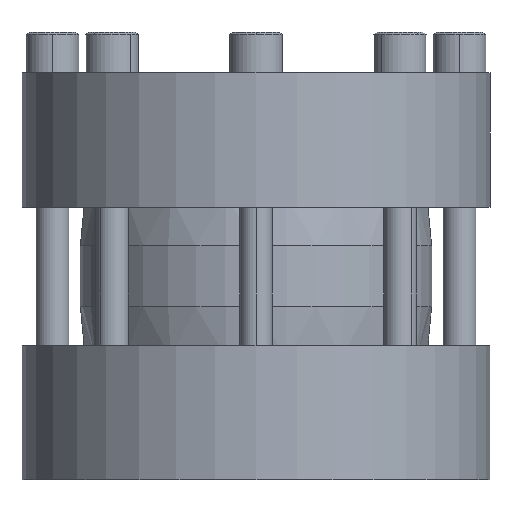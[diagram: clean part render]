
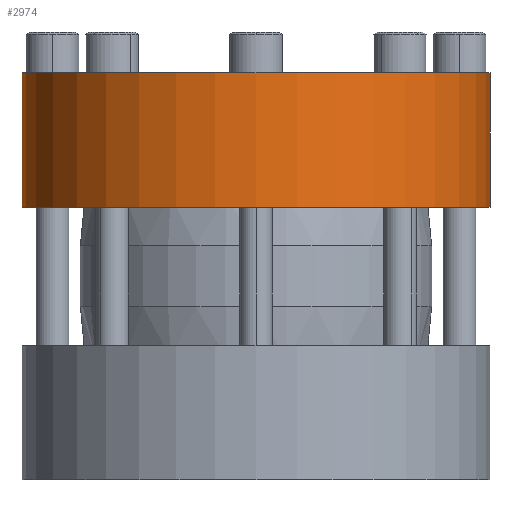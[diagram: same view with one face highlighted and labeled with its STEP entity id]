
A CAD part, front view. The second image highlights one B-rep face of the part: STEP entity #2974.
In plain terms, the highlighted cylindrical face has radius 575 mm (diameter 1150 mm), a partial arc.
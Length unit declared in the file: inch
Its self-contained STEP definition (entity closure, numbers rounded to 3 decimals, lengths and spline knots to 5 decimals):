
#13 = ORIENTED_EDGE ( 'NONE', *, *, #1366, .T. ) ;
#17 = ORIENTED_EDGE ( 'NONE', *, *, #2962, .T. ) ;
#365 = EDGE_CURVE ( 'NONE', #585, #1870, #2317, .T. ) ;
#407 = CARTESIAN_POINT ( 'NONE',  ( 27.55906, 39.37008, -12.99213 ) ) ;
#580 = EDGE_LOOP ( 'NONE', ( #2123, #13, #17, #2753 ) ) ;
#585 = VERTEX_POINT ( 'NONE', #2018 ) ;
#765 = EDGE_CURVE ( 'NONE', #876, #1870, #1964, .T. ) ;
#876 = VERTEX_POINT ( 'NONE', #2361 ) ;
#1097 = LINE ( 'NONE', #1335, #2858 ) ;
#1188 = AXIS2_PLACEMENT_3D ( 'NONE', #407, #2299, #1556 ) ;
#1335 = CARTESIAN_POINT ( 'NONE',  ( 50.19685, 39.37008, -6.49606 ) ) ;
#1366 = EDGE_CURVE ( 'NONE', #585, #1410, #1811, .T. ) ;
#1404 = CARTESIAN_POINT ( 'NONE',  ( 4.92126, 39.37008, -6.49606 ) ) ;
#1410 = VERTEX_POINT ( 'NONE', #2288 ) ;
#1556 = DIRECTION ( 'NONE',  ( 1., 0., 0. ) ) ;
#1569 = CARTESIAN_POINT ( 'NONE',  ( 27.55906, 39.37008, 0. ) ) ;
#1811 = CIRCLE ( 'NONE', #1188, 22.6378 ) ;
#1818 = VECTOR ( 'NONE', #2870, 39.37008 ) ;
#1825 = DIRECTION ( 'NONE',  ( 0., 0., 1. ) ) ;
#1866 = CARTESIAN_POINT ( 'NONE',  ( 4.92126, 39.37008, 0. ) ) ;
#1870 = VERTEX_POINT ( 'NONE', #1866 ) ;
#1964 = CIRCLE ( 'NONE', #2750, 22.6378 ) ;
#2018 = CARTESIAN_POINT ( 'NONE',  ( 4.92126, 39.37008, -12.99213 ) ) ;
#2065 = CARTESIAN_POINT ( 'NONE',  ( 27.55906, 39.37008, -6.49606 ) ) ;
#2092 = DIRECTION ( 'NONE',  ( 0., 0., -1. ) ) ;
#2123 = ORIENTED_EDGE ( 'NONE', *, *, #365, .F. ) ;
#2288 = CARTESIAN_POINT ( 'NONE',  ( 50.19685, 39.37008, -12.99213 ) ) ;
#2297 = DIRECTION ( 'NONE',  ( 0., 0., 1. ) ) ;
#2299 = DIRECTION ( 'NONE',  ( 0., 0., 1. ) ) ;
#2305 = DIRECTION ( 'NONE',  ( 1., 0., 0. ) ) ;
#2317 = LINE ( 'NONE', #1404, #1818 ) ;
#2343 = FACE_OUTER_BOUND ( 'NONE', #580, .T. ) ;
#2361 = CARTESIAN_POINT ( 'NONE',  ( 50.19685, 39.37008, 0. ) ) ;
#2493 = DIRECTION ( 'NONE',  ( 1., 0., 0. ) ) ;
#2720 = AXIS2_PLACEMENT_3D ( 'NONE', #2065, #2297, #2305 ) ;
#2750 = AXIS2_PLACEMENT_3D ( 'NONE', #1569, #2092, #2493 ) ;
#2753 = ORIENTED_EDGE ( 'NONE', *, *, #765, .T. ) ;
#2778 = CYLINDRICAL_SURFACE ( 'NONE', #2720, 22.6378 ) ;
#2858 = VECTOR ( 'NONE', #1825, 39.37008 ) ;
#2870 = DIRECTION ( 'NONE',  ( 0., 0., 1. ) ) ;
#2962 = EDGE_CURVE ( 'NONE', #1410, #876, #1097, .T. ) ;
#2974 = ADVANCED_FACE ( 'NONE', ( #2343 ), #2778, .T. ) ;
